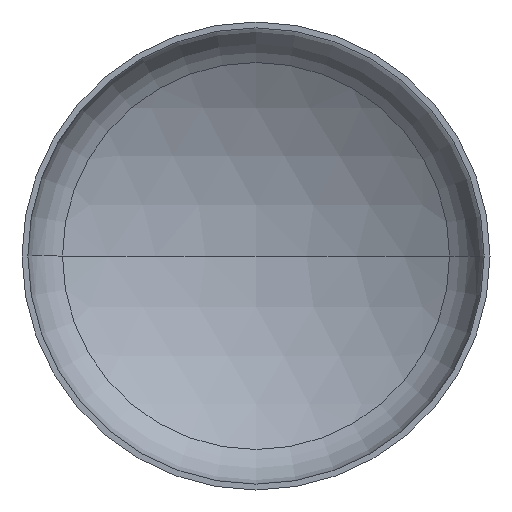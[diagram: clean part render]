
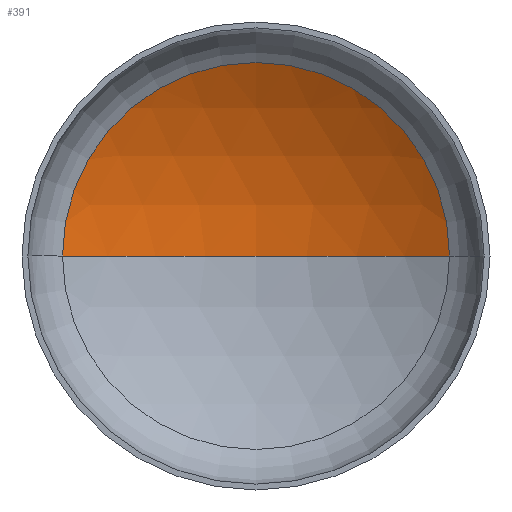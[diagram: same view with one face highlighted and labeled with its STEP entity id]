
A CAD part, front view. The second image highlights one B-rep face of the part: STEP entity #391.
In plain terms, the highlighted spherical face has radius 2560 mm.
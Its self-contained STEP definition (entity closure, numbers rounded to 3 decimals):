
#11 = EDGE_LOOP ( 'NONE', ( #152, #139, #96 ) ) ;
#14 = VERTEX_POINT ( 'NONE', #310 ) ;
#16 = DIRECTION ( 'NONE',  ( 1., 0., 0. ) ) ;
#28 = DIRECTION ( 'NONE',  ( 0., -1., 0. ) ) ;
#49 = AXIS2_PLACEMENT_3D ( 'NONE', #227, #270, #268 ) ;
#54 = AXIS2_PLACEMENT_3D ( 'NONE', #202, #211, #213 ) ;
#55 = AXIS2_PLACEMENT_3D ( 'NONE', #275, #28, #16 ) ;
#65 = VERTEX_POINT ( 'NONE', #254 ) ;
#90 = AXIS2_PLACEMENT_3D ( 'NONE', #240, #312, #306 ) ;
#96 = ORIENTED_EDGE ( 'NONE', *, *, #158, .T. ) ;
#115 = VERTEX_POINT ( 'NONE', #321 ) ;
#139 = ORIENTED_EDGE ( 'NONE', *, *, #166, .T. ) ;
#152 = ORIENTED_EDGE ( 'NONE', *, *, #171, .F. ) ;
#158 = EDGE_CURVE ( 'NONE', #14, #65, #398, .T. ) ;
#161 = SPHERICAL_SURFACE ( 'NONE', #90, 2560. ) ;
#166 = EDGE_CURVE ( 'NONE', #115, #14, #269, .T. ) ;
#171 = EDGE_CURVE ( 'NONE', #115, #65, #330, .T. ) ;
#202 = CARTESIAN_POINT ( 'NONE',  ( 0., -1652.005, 0. ) ) ;
#211 = DIRECTION ( 'NONE',  ( 0., 0., -1. ) ) ;
#213 = DIRECTION ( 'NONE',  ( -1., 0., 0. ) ) ;
#227 = CARTESIAN_POINT ( 'NONE',  ( 0., -1652.005, 0. ) ) ;
#240 = CARTESIAN_POINT ( 'NONE',  ( 0., -1652.005, 0. ) ) ;
#254 = CARTESIAN_POINT ( 'NONE',  ( -1323.285, 539.46, 0. ) ) ;
#268 = DIRECTION ( 'NONE',  ( 1., 0., 0. ) ) ;
#269 = CIRCLE ( 'NONE', #54, 2560. ) ;
#270 = DIRECTION ( 'NONE',  ( 0., 0., 1. ) ) ;
#275 = CARTESIAN_POINT ( 'NONE',  ( 0., 539.46, 0. ) ) ;
#286 = FACE_OUTER_BOUND ( 'NONE', #11, .T. ) ;
#306 = DIRECTION ( 'NONE',  ( -1., 0., 0. ) ) ;
#310 = CARTESIAN_POINT ( 'NONE',  ( 1323.285, 539.46, 0. ) ) ;
#312 = DIRECTION ( 'NONE',  ( 0., 0., -1. ) ) ;
#321 = CARTESIAN_POINT ( 'NONE',  ( 0., 907.995, 0. ) ) ;
#330 = CIRCLE ( 'NONE', #49, 2560. ) ;
#391 = ADVANCED_FACE ( 'NONE', ( #286 ), #161, .F. ) ;
#398 = CIRCLE ( 'NONE', #55, 1323.285 ) ;
